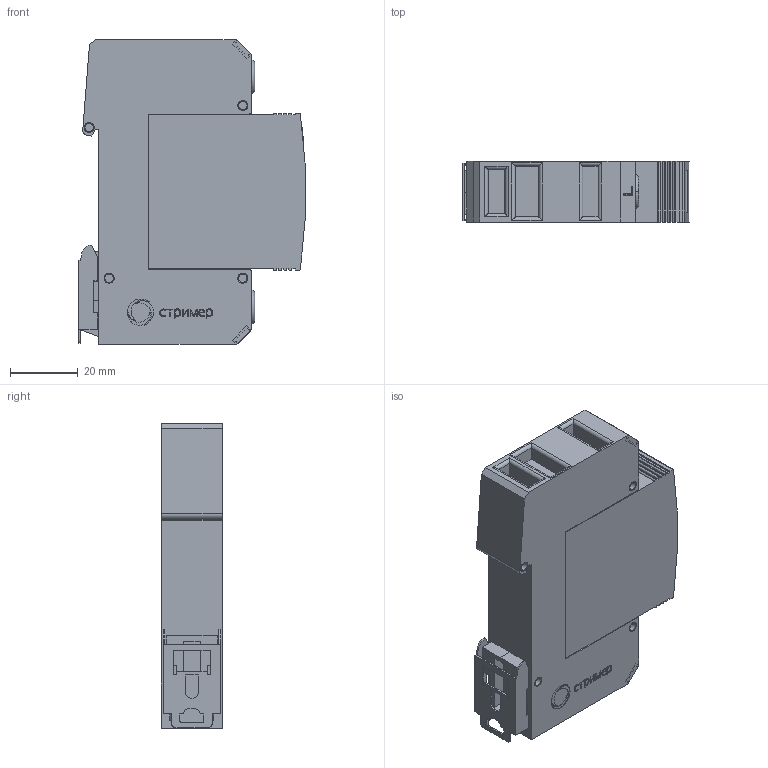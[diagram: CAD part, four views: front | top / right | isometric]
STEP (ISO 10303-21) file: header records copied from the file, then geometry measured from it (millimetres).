
FILE_DESCRIPTION(('TFLEX Exchange Step'),'2;1');
FILE_NAME('X2\041004400442\X0\.111_005.stp', '2022-07-15T15:51:54+03:00',('Pavel Oborin'),('Unknown organisation'),'TFLEX Exchange 2019.2','T-FLEX CAD','Unknown authorisation');
FILE_SCHEMA( ('AUTOMOTIVE_DESIGN { 1 0 10303 214 1 1 1 1 }') );
Length unit declared in the file: millimetre
Products named in the file (7): 0; буква N; Буква L; Планка; ВНЕШНИЙ МОДУЛЬ 18 без ушек; Корпус 18 без ушей; Арт.111_005
Assembly tree (6 placements, depth 2):
  Арт.111_005
    0
    буква N
    Буква L
    Планка
    ВНЕШНИЙ МОДУЛЬ 18 без ушек
    Корпус 18 без ушей
Bounding box: 66.98 x 18.1 x 90.08 mm (x, y, z)
Volume: 86138.2 mm3; surface area: 24121.1 mm2
Topology: 29 solids, 29 shells, 446 faces, 1101 edges, 722 vertices
Faces by surface type: plane 296, cylinder 115, bspline 31, torus 4
Entity records: 16549 total; most frequent: CARTESIAN_POINT 5691, ORIENTED_EDGE 2202, DIRECTION 2123, EDGE_CURVE 1101, VECTOR 827, LINE 827, VERTEX_POINT 722, AXIS2_PLACEMENT_3D 648
